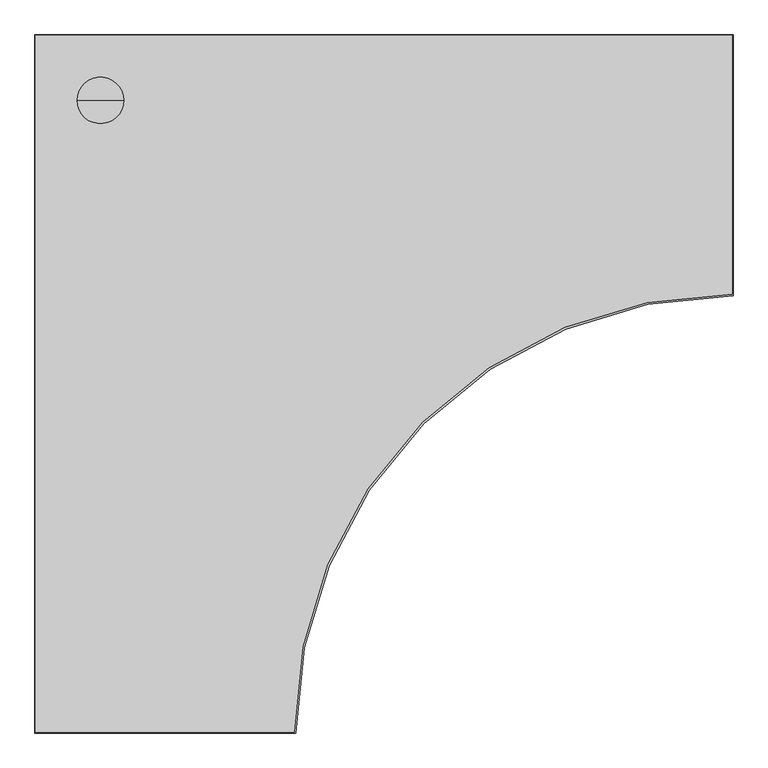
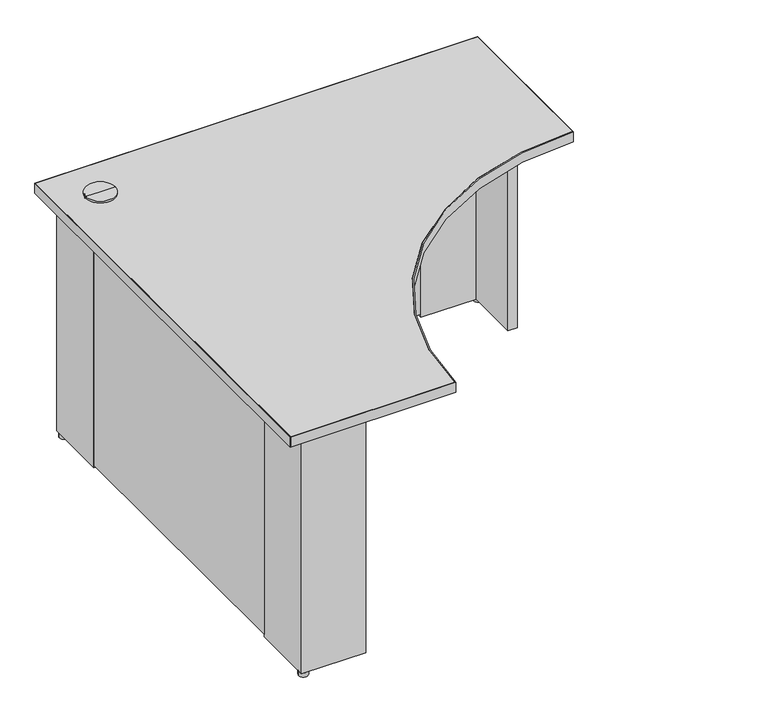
"""IFC4 building model written with IfcOpenShell, lengths in millimetres: furniture geometry, Steelcase - Kick Freestanding - Desk - Curve Corner - Full Height Modesty Panel : 18D x 48W - LPL."""

from ifc_helpers import new_model, si_unit, point, frame, frame_2d, origin, origin_with_axes, place, context, project, spatial, polyline, circle_curve, trimmed, segment, composite_curve, outline, extrude, source, transform, mapped, element, save
from ifc_brep_helpers import plane_surface, cylinder_surface, advanced_brep


def furniture_f3d3dbd9(model_context):
    return source(origin(), model_context, "Body", "SolidModel", [
        extrude(outline(polyline([(1026.4393822, -63.5), (1026.4393822, -38.1), (1204.2393579, -38.1), (1204.2393579, -215.8999939), (1178.3313463, -215.8999939), (1178.3313463, -63.5), (1026.4393822, -63.5)])), frame((0.0, 0.0, 12.446), z_axis=(0.0, 0.0, 1.0), x_axis=(1.0, 0.0, 0.0)), (0.0, 0.0, 1.0), 682.498),
        extrude(outline(polyline([(215.8999939, -63.5), (63.5, -63.5), (63.5, -215.8999939), (38.1, -215.8999939), (38.1, -38.1), (215.8999939, -38.1), (215.8999939, -63.5)])), frame((0.0, 0.0, 12.446), z_axis=(0.0, 0.0, 1.0), x_axis=(1.0, 0.0, 0.0)), (0.0, 0.0, 1.0), 682.498),
        advanced_brep(
        [(114.3, -114.3, 728.98), (154.94, -114.3, 728.98), (73.66, -114.3, 728.98), (76.1699693, -114.3, 694.944), (152.4300307, -114.3, 694.944), (114.3, -114.3, 694.944), (76.1699693, -114.3, 723.9), (152.4300307, -114.3, 723.9), (73.66, -114.3, 723.9), (154.94, -114.3, 723.9)],
        [
            (0, 1),
            (1, 2, circle_curve(frame((114.3, -114.3, 728.98), z_axis=(0.0, 0.0, 1.0), x_axis=(1.0, 0.0, 0.0)), 40.64)),
            (2, 0),
            (2, 1, circle_curve(frame((114.3, -114.3, 728.98), z_axis=(0.0, 0.0, 1.0), x_axis=(1.0, 0.0, 0.0)), 40.64)),
            (3, 4, circle_curve(frame((114.3, -114.3, 694.944), z_axis=(0.0, 0.0, -1.0), x_axis=(1.0, 0.0, 0.0)), 38.1300307)),
            (4, 5),
            (5, 3),
            (4, 3, circle_curve(frame((114.3, -114.3, 694.944), z_axis=(0.0, 0.0, -1.0), x_axis=(1.0, 0.0, 0.0)), 38.1300307)),
            (6, 7, circle_curve(frame((114.3, -114.3, 723.9), z_axis=(0.0, 0.0, -1.0), x_axis=(1.0, 0.0, 0.0)), 38.1300307)),
            (7, 4),
            (3, 6),
            (7, 6, circle_curve(frame((114.3, -114.3, 723.9), z_axis=(0.0, 0.0, -1.0), x_axis=(1.0, 0.0, 0.0)), 38.1300307)),
            (8, 9, circle_curve(frame((114.3, -114.3, 723.9), z_axis=(0.0, 0.0, -1.0), x_axis=(1.0, 0.0, 0.0)), 40.64)),
            (9, 7),
            (6, 8),
            (9, 8, circle_curve(frame((114.3, -114.3, 723.9), z_axis=(0.0, 0.0, -1.0), x_axis=(1.0, 0.0, 0.0)), 40.64)),
            (1, 9),
            (8, 2),
        ],
        [
            plane_surface(frame((114.3, -114.3, 728.98), z_axis=(0.0, 0.0, 1.0), x_axis=(1.0, 0.0, 0.0))),
            plane_surface(frame((114.3, -114.3, 694.944), z_axis=(0.0, 0.0, -1.0), x_axis=(1.0, 0.0, 0.0))),
            cylinder_surface(frame((114.3, -114.3, 728.98), z_axis=(0.0, 0.0, 1.0), x_axis=(1.0, 0.0, 0.0)), 38.1300307),
            plane_surface(frame((114.3, -114.3, 723.9), z_axis=(0.0, 0.0, -1.0), x_axis=(1.0, 0.0, 0.0))),
            cylinder_surface(frame((114.3, -114.3, 728.98), z_axis=(0.0, 0.0, 1.0), x_axis=(1.0, 0.0, 0.0)), 40.64),
        ],
        [
            (0, [[1, 2, 3]]),
            (0, [[-3, 4, -1]]),
            (1, [[5, 6, 7]]),
            (1, [[8, -7, -6]]),
            (2, [[9, 10, -5, 11]]),
            (2, [[12, -11, -8, -10]]),
            (3, [[13, 14, -9, 15]]),
            (3, [[16, -15, -12, -14]]),
            (4, [[-2, 17, -13, 18]]),
            (4, [[-4, -18, -16, -17]]),
        ],
    ),
        extrude(outline(composite_curve([segment(trimmed(circle_curve(frame_2d((50.8, -50.8)), 12.7), [point((38.1, -50.8))], [point((63.5, -50.8))], False, "CARTESIAN"), True, "CONTINUOUS"), segment(trimmed(circle_curve(frame_2d((50.8, -50.8)), 12.7), [point((63.5, -50.8))], [point((38.1, -50.8))], False, "CARTESIAN"), True, "CONTINUOUS")], self_intersect=False)), origin_with_axes(), (0.0, 0.0, 1.0), 12.446),
        extrude(outline(composite_curve([segment(trimmed(circle_curve(frame_2d((50.8, -1192.5300073)), 12.7484998), [point((38.0515002, -1192.5300073))], [point((63.5484998, -1192.5300073))], False, "CARTESIAN"), True, "CONTINUOUS"), segment(trimmed(circle_curve(frame_2d((50.8, -1192.5300073)), 12.7484998), [point((63.5484998, -1192.5300073))], [point((38.0515002, -1192.5300073))], False, "CARTESIAN"), True, "CONTINUOUS")], self_intersect=False)), origin_with_axes(), (0.0, 0.0, 1.0), 12.446),
        extrude(outline(composite_curve([segment(trimmed(circle_curve(frame_2d((1191.2853521, -50.8)), 12.7), [point((1178.5853521, -50.8))], [point((1203.9853521, -50.8))], False, "CARTESIAN"), True, "CONTINUOUS"), segment(trimmed(circle_curve(frame_2d((1191.2853521, -50.8)), 12.7), [point((1203.9853521, -50.8))], [point((1178.5853521, -50.8))], False, "CARTESIAN"), True, "CONTINUOUS")], self_intersect=False)), origin_with_axes(), (0.0, 0.0, 1.0), 12.446),
        extrude(outline(polyline([(63.5, -215.8999939), (63.5, -1027.4300194), (38.1, -1027.4300194), (38.1, -215.8999939), (63.5, -215.8999939)])), frame((0.0, 0.0, 20.828), z_axis=(0.0, 0.0, 1.0), x_axis=(1.0, 0.0, 0.0)), (0.0, 0.0, 1.0), 674.116),
        extrude(outline(polyline([(1026.4393822, -38.1), (1026.4393822, -63.5), (215.8999939, -63.5), (215.8999939, -38.1), (1026.4393822, -38.1)])), frame((0.0, 0.0, 20.828), z_axis=(0.0, 0.0, 1.0), x_axis=(1.0, 0.0, 0.0)), (0.0, 0.0, 1.0), 674.116),
        extrude(outline(polyline([(215.8999939, -1179.8300194), (215.8999939, -1205.2299952), (38.1, -1205.2299952), (38.1, -1027.4300194), (63.5, -1027.4300194), (63.5, -1179.8300194), (215.8999939, -1179.8300194)])), frame((0.0, 0.0, 12.446), z_axis=(0.0, 0.0, 1.0), x_axis=(1.0, 0.0, 0.0)), (0.0, 0.0, 1.0), 682.498),
        extrude(outline(composite_curve([segment(polyline([(0.9906, -1218.2093628), (0.9906, -0.9906), (1218.2093628, -0.9906), (1218.2093628, -452.9354109)]), True, "CONTINUOUS"), segment(trimmed(circle_curve(frame_2d((1216.9393458, -1216.9393458)), 764.0049905), [point((1218.2093628, -452.9354109))], [point((452.9354109, -1218.2093628))], True, "CARTESIAN"), True, "CONTINUOUS"), segment(polyline([(452.9354109, -1218.2093628), (0.9906, -1218.2093628)]), True, "CONTINUOUS")], self_intersect=False)), frame((0.0, 0.0, 694.944), z_axis=(0.0, 0.0, 1.0), x_axis=(1.0, 0.0, 0.0)), (0.0, 0.0, 1.0), 28.956),
        extrude(outline(composite_curve([segment(polyline([(1219.2, 0.0), (1219.2, -455.932629)]), True, "CONTINUOUS"), segment(trimmed(circle_curve(frame_2d((1217.929983, -1217.929983)), 761.9984124), [point((1219.2, -455.932629))], [point((455.932629, -1219.2))], True, "CARTESIAN"), True, "CONTINUOUS"), segment(polyline([(455.932629, -1219.2), (0.0, -1219.2), (0.0, 0.0), (1219.2, 0.0)]), True, "CONTINUOUS")], self_intersect=False), holes=[composite_curve([segment(polyline([(1218.2093628, -0.9906), (0.9906, -0.9906), (0.9906, -1218.2093628), (452.9354109, -1218.2093628)]), True, "CONTINUOUS"), segment(trimmed(circle_curve(frame_2d((1216.9393458, -1216.9393458)), 764.0049905), [point((452.9354109, -1218.2093628))], [point((1218.2093628, -452.9354109))], False, "CARTESIAN"), True, "CONTINUOUS"), segment(polyline([(1218.2093628, -452.9354109), (1218.2093628, -0.9906)]), True, "CONTINUOUS")], self_intersect=False)]), frame((0.0, 0.0, 694.944), z_axis=(0.0, 0.0, 1.0), x_axis=(1.0, 0.0, 0.0)), (0.0, 0.0, 1.0), 28.956),
    ])


if __name__ == "__main__":
    model = new_model("IFC4")
    model_context = context("Model", 3, world=origin())
    ifc_project = project(units=[si_unit("LENGTHUNIT", "METRE", prefix="MILLI")], contexts=[model_context])
    site = spatial("IfcSite", under=ifc_project)
    building = spatial("IfcBuilding", under=site)
    placement = place(None, origin())
    furniture_shape = furniture_f3d3dbd9(model_context)
    element("IfcFurniture", 1, ObjectType="Steelcase - Kick Freestanding - Desk - Curve Corner - Full Height Modesty Panel : 18D x 48W - LPL", at=placement, inside=building, context=model_context, shape_type="MappedRepresentation", body=[
        mapped(furniture_shape, transform((0.0, 0.0, 0.0), x_axis=(1.0, 0.0, 0.0), y_axis=(0.0, 1.0, 0.0), z_axis=(0.0, 0.0, 1.0))),
    ])
    save(model, "model.ifc")
